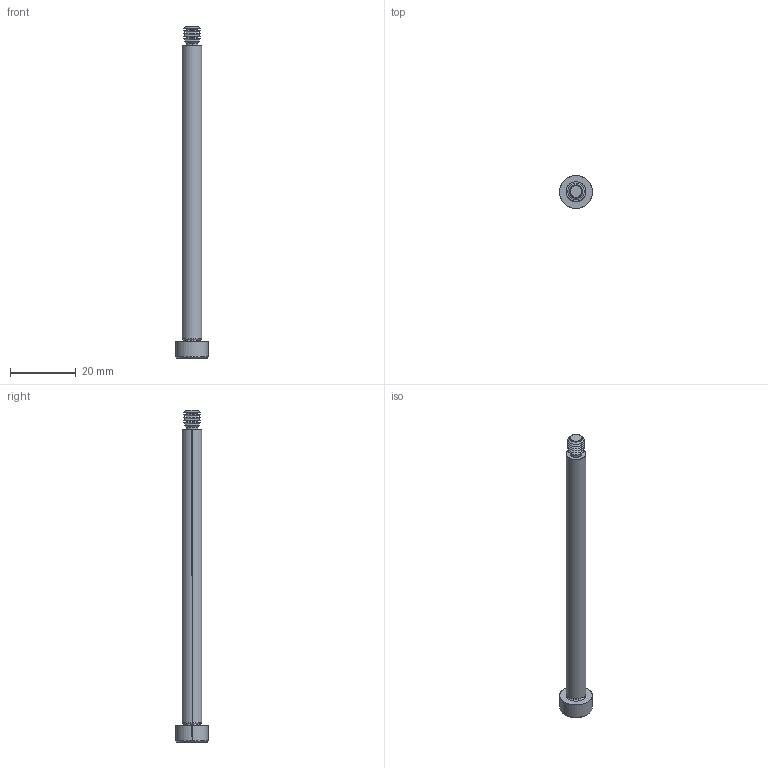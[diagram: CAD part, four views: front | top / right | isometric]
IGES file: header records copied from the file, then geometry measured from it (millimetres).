
Start section: SolidWorks IGES file using analytic representation for surfaces
Global section: file name: C:\Users\IanO\Documents\Temp Folder\GENERAL\SCREW REVISION\P0130_v2\P0130.T5_v2_20220106_IGES\P0130.060-090-T5.igs; native system: SolidWorks 2019; preprocessor: SolidWorks 2019; author: IanO; date: 220106.222910; units: millimetre
Bounding box: 10 x 10 x 101 mm (x, y, z)
Surface area: 2184 mm2 (no closed solid volume)
Topology: 0 solids, 0 shells, 64 faces, 504 edges, 502 vertices
Faces by surface type: revolution 44, bspline 20
